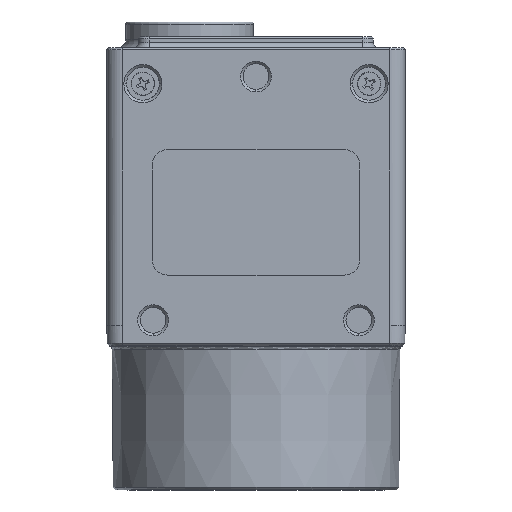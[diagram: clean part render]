
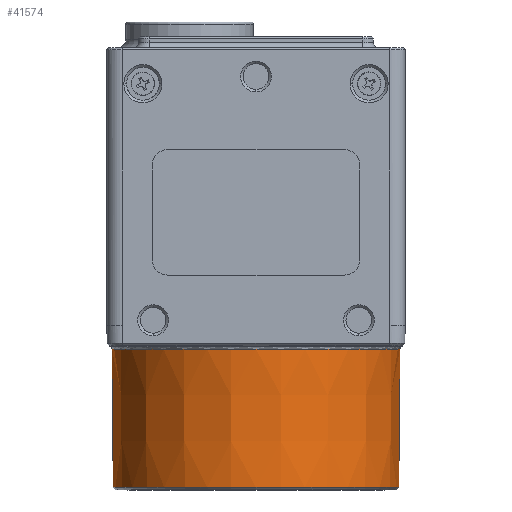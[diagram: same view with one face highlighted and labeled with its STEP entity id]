
A CAD part, front view. The second image highlights one B-rep face of the part: STEP entity #41574.
In plain terms, the highlighted conical face has half-angle 0.5 degrees and reference radius 13.997 mm.
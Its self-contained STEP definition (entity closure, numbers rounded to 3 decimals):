
#1037 = EDGE_CURVE ( 'NONE', #42720, #39296, #57736, .T. ) ;
#1547 = CARTESIAN_POINT ( 'NONE',  ( 13.88, 0., 0.25 ) ) ;
#4715 = CIRCLE ( 'NONE', #25556, 13.997 ) ;
#5113 = CARTESIAN_POINT ( 'NONE',  ( 0., 0., 13.703 ) ) ;
#5908 = CARTESIAN_POINT ( 'NONE',  ( 13.997, 0., 13.703 ) ) ;
#8092 = CARTESIAN_POINT ( 'NONE',  ( 13.997, 0., 13.703 ) ) ;
#9956 = DIRECTION ( 'NONE',  ( 1., 0., 0. ) ) ;
#12130 = CARTESIAN_POINT ( 'NONE',  ( 0., 0., 0.25 ) ) ;
#16104 = CIRCLE ( 'NONE', #58580, 13.88 ) ;
#16990 = DIRECTION ( 'NONE',  ( 0., -1., 0. ) ) ;
#19410 = VECTOR ( 'NONE', #51389, 1000. ) ;
#19643 = DIRECTION ( 'NONE',  ( 0., 0., 1. ) ) ;
#22652 = DIRECTION ( 'NONE',  ( 0., 0., -1. ) ) ;
#23266 = EDGE_LOOP ( 'NONE', ( #52566, #53935, #34872, #25252 ) ) ;
#25252 = ORIENTED_EDGE ( 'NONE', *, *, #29088, .T. ) ;
#25556 = AXIS2_PLACEMENT_3D ( 'NONE', #51386, #22652, #56220 ) ;
#28278 = AXIS2_PLACEMENT_3D ( 'NONE', #5113, #19643, #9956 ) ;
#28752 = VECTOR ( 'NONE', #59598, 1000. ) ;
#29088 = EDGE_CURVE ( 'NONE', #39296, #50796, #4715, .T. ) ;
#30239 = LINE ( 'NONE', #40292, #28752 ) ;
#33934 = CARTESIAN_POINT ( 'NONE',  ( -13.997, 0., 13.703 ) ) ;
#34872 = ORIENTED_EDGE ( 'NONE', *, *, #1037, .T. ) ;
#39296 = VERTEX_POINT ( 'NONE', #5908 ) ;
#40292 = CARTESIAN_POINT ( 'NONE',  ( -13.997, 0., 13.703 ) ) ;
#41574 = ADVANCED_FACE ( 'NONE', ( #45805 ), #55577, .T. ) ;
#42720 = VERTEX_POINT ( 'NONE', #1547 ) ;
#45689 = EDGE_CURVE ( 'NONE', #47499, #42720, #16104, .T. ) ;
#45737 = DIRECTION ( 'NONE',  ( 0., 0., 1. ) ) ;
#45805 = FACE_OUTER_BOUND ( 'NONE', #23266, .T. ) ;
#47499 = VERTEX_POINT ( 'NONE', #47814 ) ;
#47814 = CARTESIAN_POINT ( 'NONE',  ( -13.88, 0., 0.25 ) ) ;
#50796 = VERTEX_POINT ( 'NONE', #33934 ) ;
#51386 = CARTESIAN_POINT ( 'NONE',  ( 0., 0., 13.703 ) ) ;
#51389 = DIRECTION ( 'NONE',  ( 0.009, 0., 1. ) ) ;
#52566 = ORIENTED_EDGE ( 'NONE', *, *, #55848, .F. ) ;
#53935 = ORIENTED_EDGE ( 'NONE', *, *, #45689, .T. ) ;
#55577 = CONICAL_SURFACE ( 'NONE', #28278, 13.997, 0.009 ) ;
#55848 = EDGE_CURVE ( 'NONE', #47499, #50796, #30239, .T. ) ;
#56220 = DIRECTION ( 'NONE',  ( 0., -1., 0. ) ) ;
#57736 = LINE ( 'NONE', #8092, #19410 ) ;
#58580 = AXIS2_PLACEMENT_3D ( 'NONE', #12130, #45737, #16990 ) ;
#59598 = DIRECTION ( 'NONE',  ( -0.009, 0., 1. ) ) ;
